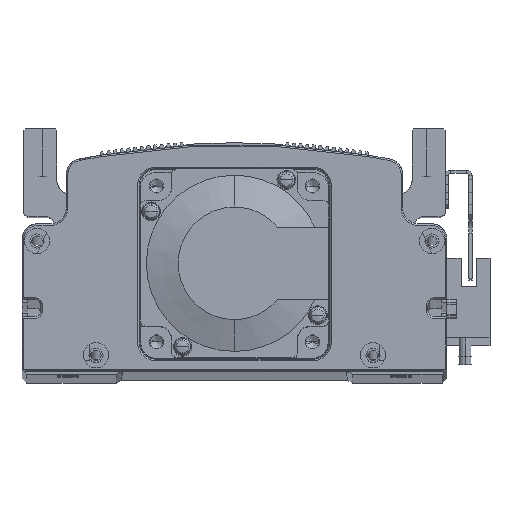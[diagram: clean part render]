
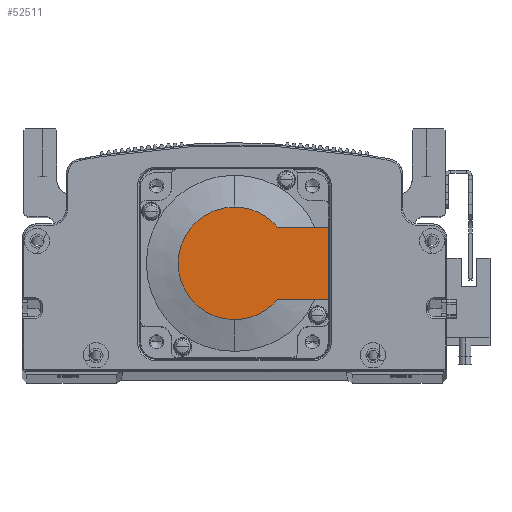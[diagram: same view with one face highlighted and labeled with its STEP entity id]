
A CAD part, top view. The second image highlights one B-rep face of the part: STEP entity #52511.
In plain terms, the highlighted planar face has unit normal (0, 0, 1) as drawn and (-1, 0, 0) by its records, which use the part's own axes.
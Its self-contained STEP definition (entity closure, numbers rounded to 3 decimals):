
#2447 = CARTESIAN_POINT ( 'NONE',  ( -118.5, 0., 0. ) ) ;
#3196 = AXIS2_PLACEMENT_3D ( 'NONE', #22360, #55861, #50426 ) ;
#3881 = CARTESIAN_POINT ( 'NONE',  ( -118.5, 13.735, 11.45 ) ) ;
#5075 = EDGE_CURVE ( 'NONE', #42734, #35670, #44528, .T. ) ;
#5394 = DIRECTION ( 'NONE',  ( -1., 0., 0. ) ) ;
#5621 = ORIENTED_EDGE ( 'NONE', *, *, #5075, .T. ) ;
#6006 = ORIENTED_EDGE ( 'NONE', *, *, #37464, .F. ) ;
#14162 = ORIENTED_EDGE ( 'NONE', *, *, #53377, .T. ) ;
#14243 = CARTESIAN_POINT ( 'NONE',  ( -118.5, 0., 17.881 ) ) ;
#17193 = EDGE_CURVE ( 'NONE', #20417, #47495, #58222, .T. ) ;
#18687 = AXIS2_PLACEMENT_3D ( 'NONE', #39142, #5394, #68549 ) ;
#20417 = VERTEX_POINT ( 'NONE', #72566 ) ;
#21705 = FACE_OUTER_BOUND ( 'NONE', #41291, .T. ) ;
#22360 = CARTESIAN_POINT ( 'NONE',  ( -118.5, 0., 0. ) ) ;
#25430 = ORIENTED_EDGE ( 'NONE', *, *, #53777, .T. ) ;
#25613 = CARTESIAN_POINT ( 'NONE',  ( -118.5, -8.941, -11.45 ) ) ;
#25857 = ORIENTED_EDGE ( 'NONE', *, *, #17193, .T. ) ;
#27091 = EDGE_CURVE ( 'NONE', #20417, #37670, #28849, .T. ) ;
#28849 = LINE ( 'NONE', #69162, #73108 ) ;
#29191 = VECTOR ( 'NONE', #52203, 1000. ) ;
#35670 = VERTEX_POINT ( 'NONE', #14243 ) ;
#35756 = DIRECTION ( 'NONE',  ( -1., 0., 0. ) ) ;
#36585 = AXIS2_PLACEMENT_3D ( 'NONE', #2447, #35756, #58191 ) ;
#36941 = DIRECTION ( 'NONE',  ( 0., -1., 0. ) ) ;
#37464 = EDGE_CURVE ( 'NONE', #37670, #41894, #58373, .T. ) ;
#37670 = VERTEX_POINT ( 'NONE', #42810 ) ;
#39142 = CARTESIAN_POINT ( 'NONE',  ( -118.5, 0., 0. ) ) ;
#39844 = DIRECTION ( 'NONE',  ( 0., 0., 1. ) ) ;
#39979 = DIRECTION ( 'NONE',  ( 0., 0., 1. ) ) ;
#40838 = CARTESIAN_POINT ( 'NONE',  ( -118.5, 0., 11.45 ) ) ;
#41291 = EDGE_LOOP ( 'NONE', ( #25857, #25430, #5621, #14162, #6006, #65887 ) ) ;
#41894 = VERTEX_POINT ( 'NONE', #3881 ) ;
#42734 = VERTEX_POINT ( 'NONE', #63949 ) ;
#42810 = CARTESIAN_POINT ( 'NONE',  ( -118.5, 30., 11.45 ) ) ;
#44528 = CIRCLE ( 'NONE', #3196, 17.881 ) ;
#45761 = DIRECTION ( 'NONE',  ( -1., 0., 0. ) ) ;
#47495 = VERTEX_POINT ( 'NONE', #49790 ) ;
#47599 = VECTOR ( 'NONE', #36941, 1000. ) ;
#49767 = AXIS2_PLACEMENT_3D ( 'NONE', #50945, #45761, #39844 ) ;
#49790 = CARTESIAN_POINT ( 'NONE',  ( -118.5, 13.735, -11.45 ) ) ;
#50426 = DIRECTION ( 'NONE',  ( 0., 0., -1. ) ) ;
#50945 = CARTESIAN_POINT ( 'NONE',  ( -118.5, -8.941, 0. ) ) ;
#52203 = DIRECTION ( 'NONE',  ( 0., -1., 0. ) ) ;
#52511 = ADVANCED_FACE ( 'NONE', ( #21705 ), #62040, .T. ) ;
#53377 = EDGE_CURVE ( 'NONE', #35670, #41894, #55988, .T. ) ;
#53777 = EDGE_CURVE ( 'NONE', #47495, #42734, #57696, .T. ) ;
#55861 = DIRECTION ( 'NONE',  ( -1., 0., 0. ) ) ;
#55988 = CIRCLE ( 'NONE', #36585, 17.881 ) ;
#57696 = CIRCLE ( 'NONE', #18687, 17.881 ) ;
#58191 = DIRECTION ( 'NONE',  ( 0., 0., -1. ) ) ;
#58222 = LINE ( 'NONE', #25613, #47599 ) ;
#58373 = LINE ( 'NONE', #40838, #29191 ) ;
#62040 = PLANE ( 'NONE',  #49767 ) ;
#63949 = CARTESIAN_POINT ( 'NONE',  ( -118.5, 0., -17.881 ) ) ;
#65887 = ORIENTED_EDGE ( 'NONE', *, *, #27091, .F. ) ;
#68549 = DIRECTION ( 'NONE',  ( 0., 0., -1. ) ) ;
#69162 = CARTESIAN_POINT ( 'NONE',  ( -118.5, 30., 25. ) ) ;
#72566 = CARTESIAN_POINT ( 'NONE',  ( -118.5, 30., -11.45 ) ) ;
#73108 = VECTOR ( 'NONE', #39979, 1000. ) ;
